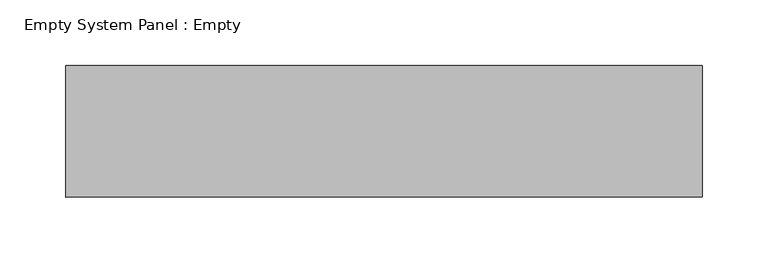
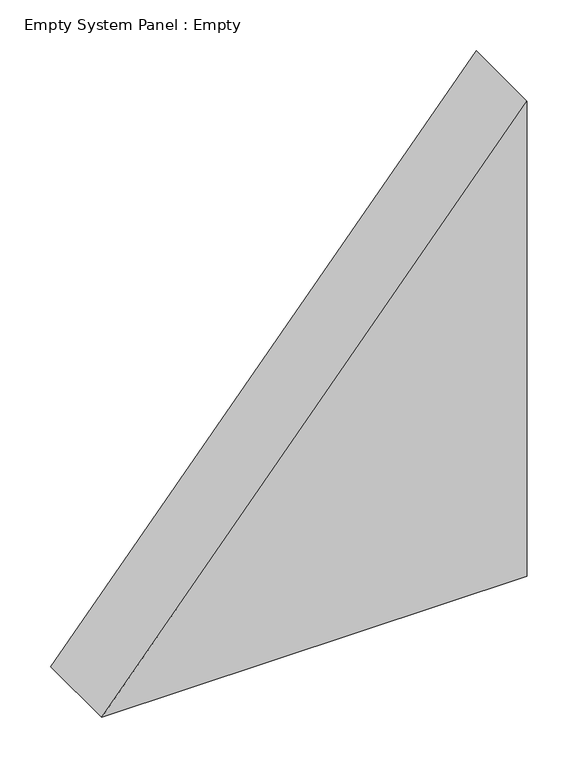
"""IFC4 building model written with IfcOpenShell, lengths in millimetres: plate geometry, Empty System Panel : Empty."""

from ifc_helpers import new_model, si_unit, frame, origin, place, context, project, spatial, polyline, outline, extrude, source, transform, mapped, element, save


def empty_system_panel_empty_035b99d8(model_context):
    return source(origin(), model_context, "Body", "SweptSolid", [
        extrude(outline(polyline([(0.0, -241.7466693), (0.0, 241.7466693), (570.104257, 241.7466693), (0.0, -241.7466693)])), frame((0.0, -50.0, 0.0), z_axis=(0.0, 1.0, 0.0), x_axis=(0.0, 0.0, 1.0)), (0.0, 0.0, 1.0), 100.0),
    ])


if __name__ == "__main__":
    model = new_model("IFC4")
    model_context = context("Model", 3, world=origin())
    ifc_project = project(units=[si_unit("LENGTHUNIT", "METRE", prefix="MILLI")], contexts=[model_context])
    site = spatial("IfcSite", under=ifc_project)
    building = spatial("IfcBuilding", under=site)
    placement = place(None, origin())
    empty_system_panel_empty_shape = empty_system_panel_empty_035b99d8(model_context)
    element("IfcPlate", 1, ObjectType="Empty System Panel : Empty", at=placement, inside=building, context=model_context, shape_type="MappedRepresentation", body=[
        mapped(empty_system_panel_empty_shape, transform((0.0, 0.0, 0.0), x_axis=(1.0, 0.0, 0.0), y_axis=(0.0, 1.0, 0.0), z_axis=(0.0, 0.0, 1.0))),
    ])
    save(model, "model.ifc")
